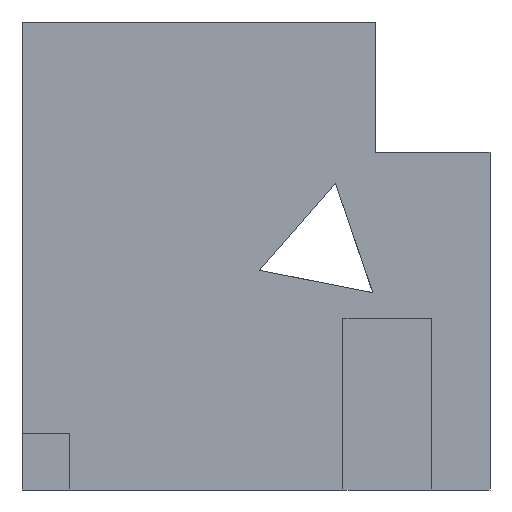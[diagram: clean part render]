
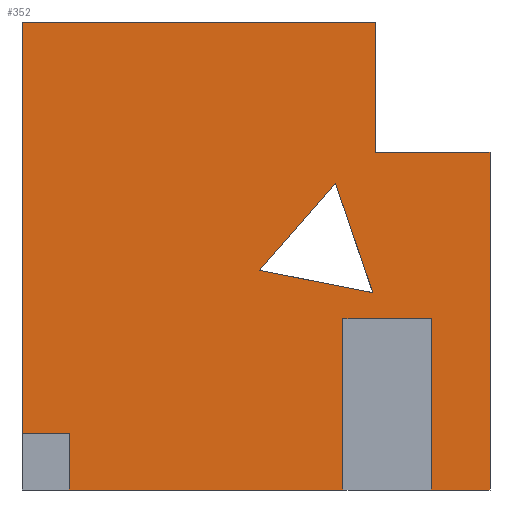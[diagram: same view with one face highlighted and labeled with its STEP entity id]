
A CAD part, left-side view. The second image highlights one B-rep face of the part: STEP entity #352.
In plain terms, the highlighted planar face has unit normal (-1, 0, 0).
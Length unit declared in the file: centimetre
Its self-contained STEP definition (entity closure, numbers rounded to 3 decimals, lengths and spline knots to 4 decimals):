
#4 = ORIENTED_EDGE ( 'NONE', *, *, #443, .T. ) ;
#7 = LINE ( 'NONE', #502, #535 ) ;
#10 = LINE ( 'NONE', #209, #183 ) ;
#18 = ORIENTED_EDGE ( 'NONE', *, *, #765, .F. ) ;
#21 = DIRECTION ( 'NONE',  ( 0., 0., -1. ) ) ;
#23 = ORIENTED_EDGE ( 'NONE', *, *, #522, .T. ) ;
#24 = VECTOR ( 'NONE', #69, 100. ) ;
#25 = VECTOR ( 'NONE', #36, 100. ) ;
#31 = EDGE_CURVE ( 'NONE', #492, #170, #10, .T. ) ;
#34 = VERTEX_POINT ( 'NONE', #609 ) ;
#36 = DIRECTION ( 'NONE',  ( 0., 0.322, 0.947 ) ) ;
#37 = EDGE_CURVE ( 'NONE', #452, #230, #406, .T. ) ;
#38 = CARTESIAN_POINT ( 'NONE',  ( 0., 245.0441, 721.5995 ) ) ;
#44 = CARTESIAN_POINT ( 'NONE',  ( 0., 898.9864, 120.446 ) ) ;
#46 = LINE ( 'NONE', #529, #215 ) ;
#47 = ORIENTED_EDGE ( 'NONE', *, *, #606, .T. ) ;
#52 = LINE ( 'NONE', #38, #163 ) ;
#69 = DIRECTION ( 'NONE',  ( 0., 1., 0. ) ) ;
#79 = CARTESIAN_POINT ( 'NONE',  ( 0., 125.2231, 365.7181 ) ) ;
#81 = CARTESIAN_POINT ( 'NONE',  ( 0., 1000., 1000. ) ) ;
#104 = CARTESIAN_POINT ( 'NONE',  ( 0., 250.3534, 421.5131 ) ) ;
#110 = EDGE_CURVE ( 'NONE', #782, #622, #171, .T. ) ;
#125 = CARTESIAN_POINT ( 'NONE',  ( 0., 0., 721.5995 ) ) ;
#128 = EDGE_LOOP ( 'NONE', ( #47, #451, #173, #624, #18, #328, #23, #237, #357, #4, #228, #796 ) ) ;
#136 = VECTOR ( 'NONE', #21, 100. ) ;
#144 = VECTOR ( 'NONE', #773, 100. ) ;
#147 = VECTOR ( 'NONE', #687, 100. ) ;
#153 = DIRECTION ( 'NONE',  ( 0., 0., 1. ) ) ;
#157 = CARTESIAN_POINT ( 'NONE',  ( 0., 245.0441, 721.5995 ) ) ;
#160 = DIRECTION ( 'NONE',  ( 0., 0., 1. ) ) ;
#162 = CARTESIAN_POINT ( 'NONE',  ( 0., 0., 721.5995 ) ) ;
#163 = VECTOR ( 'NONE', #160, 100. ) ;
#169 = FACE_BOUND ( 'NONE', #329, .T. ) ;
#170 = VERTEX_POINT ( 'NONE', #674 ) ;
#171 = LINE ( 'NONE', #528, #742 ) ;
#173 = ORIENTED_EDGE ( 'NONE', *, *, #712, .F. ) ;
#183 = VECTOR ( 'NONE', #547, 100. ) ;
#184 = ORIENTED_EDGE ( 'NONE', *, *, #761, .F. ) ;
#196 = VERTEX_POINT ( 'NONE', #527 ) ;
#206 = VECTOR ( 'NONE', #401, 100. ) ;
#209 = CARTESIAN_POINT ( 'NONE',  ( 0., 1000., 1000. ) ) ;
#213 = LINE ( 'NONE', #79, #136 ) ;
#215 = VECTOR ( 'NONE', #297, 100. ) ;
#221 = CARTESIAN_POINT ( 'NONE',  ( 0., 250.3534, 421.5131 ) ) ;
#225 = CARTESIAN_POINT ( 'NONE',  ( 0., 898.9864, 0. ) ) ;
#228 = ORIENTED_EDGE ( 'NONE', *, *, #270, .T. ) ;
#230 = VERTEX_POINT ( 'NONE', #246 ) ;
#233 = DIRECTION ( 'NONE',  ( 0., 0., -1. ) ) ;
#235 = PLANE ( 'NONE',  #584 ) ;
#237 = ORIENTED_EDGE ( 'NONE', *, *, #620, .T. ) ;
#246 = CARTESIAN_POINT ( 'NONE',  ( 0., 1000., 120.446 ) ) ;
#251 = LINE ( 'NONE', #125, #24 ) ;
#255 = VECTOR ( 'NONE', #794, 100. ) ;
#256 = DIRECTION ( 'NONE',  ( 0., 1., 0. ) ) ;
#263 = DIRECTION ( 'NONE',  ( 0., 0.659, -0.753 ) ) ;
#270 = EDGE_CURVE ( 'NONE', #312, #170, #52, .T. ) ;
#276 = LINE ( 'NONE', #453, #339 ) ;
#279 = CARTESIAN_POINT ( 'NONE',  ( 0., 330.1584, 655.7748 ) ) ;
#281 = LINE ( 'NONE', #701, #206 ) ;
#297 = DIRECTION ( 'NONE',  ( 0., 0., -1. ) ) ;
#312 = VERTEX_POINT ( 'NONE', #157 ) ;
#328 = ORIENTED_EDGE ( 'NONE', *, *, #441, .F. ) ;
#329 = EDGE_LOOP ( 'NONE', ( #343, #184, #445 ) ) ;
#334 = CARTESIAN_POINT ( 'NONE',  ( 0., 898.9864, 0. ) ) ;
#339 = VECTOR ( 'NONE', #511, 100. ) ;
#343 = ORIENTED_EDGE ( 'NONE', *, *, #657, .F. ) ;
#346 = VECTOR ( 'NONE', #256, 100. ) ;
#349 = LINE ( 'NONE', #225, #426 ) ;
#352 = ADVANCED_FACE ( 'NONE', ( #169, #779 ), #235, .F. ) ;
#357 = ORIENTED_EDGE ( 'NONE', *, *, #110, .F. ) ;
#365 = CARTESIAN_POINT ( 'NONE',  ( 0., 493.1325, 469.5308 ) ) ;
#373 = VERTEX_POINT ( 'NONE', #783 ) ;
#374 = CARTESIAN_POINT ( 'NONE',  ( 0., 898.9864, 120.446 ) ) ;
#377 = LINE ( 'NONE', #680, #255 ) ;
#386 = LINE ( 'NONE', #221, #25 ) ;
#401 = DIRECTION ( 'NONE',  ( 0., -0.981, -0.194 ) ) ;
#406 = LINE ( 'NONE', #44, #144 ) ;
#408 = EDGE_CURVE ( 'NONE', #559, #373, #377, .T. ) ;
#414 = DIRECTION ( 'NONE',  ( 0., 0., -1. ) ) ;
#426 = VECTOR ( 'NONE', #153, 100. ) ;
#441 = EDGE_CURVE ( 'NONE', #748, #196, #621, .T. ) ;
#442 = CARTESIAN_POINT ( 'NONE',  ( 0., 125.2231, 365.7181 ) ) ;
#443 = EDGE_CURVE ( 'NONE', #782, #312, #251, .T. ) ;
#445 = ORIENTED_EDGE ( 'NONE', *, *, #467, .F. ) ;
#448 = CARTESIAN_POINT ( 'NONE',  ( 0., 1000., 1000. ) ) ;
#451 = ORIENTED_EDGE ( 'NONE', *, *, #37, .F. ) ;
#452 = VERTEX_POINT ( 'NONE', #374 ) ;
#453 = CARTESIAN_POINT ( 'NONE',  ( 0., 1000., 0. ) ) ;
#455 = VERTEX_POINT ( 'NONE', #365 ) ;
#467 = EDGE_CURVE ( 'NONE', #561, #455, #7, .T. ) ;
#472 = CARTESIAN_POINT ( 'NONE',  ( 0., 125.2231, 365.7181 ) ) ;
#476 = CARTESIAN_POINT ( 'NONE',  ( 0., 1000., 1000. ) ) ;
#492 = VERTEX_POINT ( 'NONE', #81 ) ;
#502 = CARTESIAN_POINT ( 'NONE',  ( 0., 330.1584, 655.7748 ) ) ;
#511 = DIRECTION ( 'NONE',  ( 0., -1., 0. ) ) ;
#513 = CARTESIAN_POINT ( 'NONE',  ( 0., 0., 0. ) ) ;
#522 = EDGE_CURVE ( 'NONE', #748, #34, #213, .T. ) ;
#527 = CARTESIAN_POINT ( 'NONE',  ( 0., 314.1486, 365.7181 ) ) ;
#528 = CARTESIAN_POINT ( 'NONE',  ( 0., 0., 1000. ) ) ;
#529 = CARTESIAN_POINT ( 'NONE',  ( 0., 314.1486, 365.7181 ) ) ;
#535 = VECTOR ( 'NONE', #263, 100. ) ;
#547 = DIRECTION ( 'NONE',  ( 0., -1., 0. ) ) ;
#559 = VERTEX_POINT ( 'NONE', #334 ) ;
#561 = VERTEX_POINT ( 'NONE', #279 ) ;
#584 = AXIS2_PLACEMENT_3D ( 'NONE', #476, #711, #414 ) ;
#606 = EDGE_CURVE ( 'NONE', #492, #230, #754, .T. ) ;
#609 = CARTESIAN_POINT ( 'NONE',  ( 0., 125.2231, 0. ) ) ;
#620 = EDGE_CURVE ( 'NONE', #34, #622, #276, .T. ) ;
#621 = LINE ( 'NONE', #442, #346 ) ;
#622 = VERTEX_POINT ( 'NONE', #513 ) ;
#624 = ORIENTED_EDGE ( 'NONE', *, *, #408, .T. ) ;
#657 = EDGE_CURVE ( 'NONE', #737, #561, #386, .T. ) ;
#674 = CARTESIAN_POINT ( 'NONE',  ( 0., 245.0441, 1000. ) ) ;
#680 = CARTESIAN_POINT ( 'NONE',  ( 0., 1000., 0. ) ) ;
#687 = DIRECTION ( 'NONE',  ( 0., 0., -1. ) ) ;
#701 = CARTESIAN_POINT ( 'NONE',  ( 0., 493.1325, 469.5308 ) ) ;
#711 = DIRECTION ( 'NONE',  ( 1., 0., 0. ) ) ;
#712 = EDGE_CURVE ( 'NONE', #559, #452, #349, .T. ) ;
#737 = VERTEX_POINT ( 'NONE', #104 ) ;
#742 = VECTOR ( 'NONE', #233, 100. ) ;
#748 = VERTEX_POINT ( 'NONE', #472 ) ;
#754 = LINE ( 'NONE', #448, #147 ) ;
#761 = EDGE_CURVE ( 'NONE', #455, #737, #281, .T. ) ;
#765 = EDGE_CURVE ( 'NONE', #196, #373, #46, .T. ) ;
#773 = DIRECTION ( 'NONE',  ( 0., 1., 0. ) ) ;
#779 = FACE_OUTER_BOUND ( 'NONE', #128, .T. ) ;
#782 = VERTEX_POINT ( 'NONE', #162 ) ;
#783 = CARTESIAN_POINT ( 'NONE',  ( 0., 314.1486, 0. ) ) ;
#794 = DIRECTION ( 'NONE',  ( 0., -1., 0. ) ) ;
#796 = ORIENTED_EDGE ( 'NONE', *, *, #31, .F. ) ;
